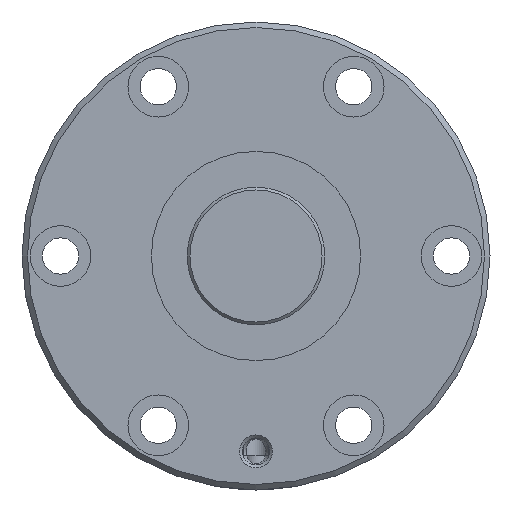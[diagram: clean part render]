
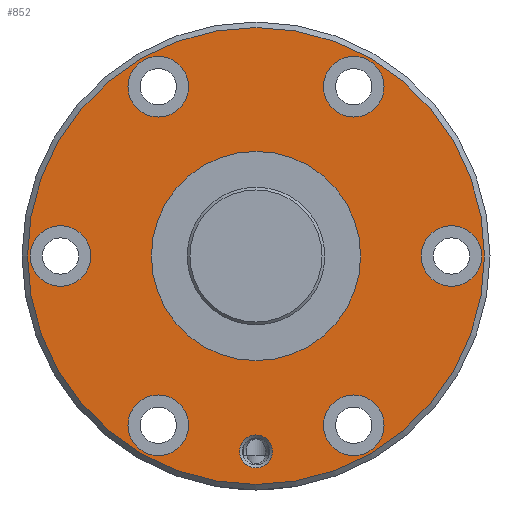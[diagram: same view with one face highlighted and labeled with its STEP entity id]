
A CAD part, left-side view. The second image highlights one B-rep face of the part: STEP entity #852.
In plain terms, the highlighted planar face has unit normal (-1, 0, 0).
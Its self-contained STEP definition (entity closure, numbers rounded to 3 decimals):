
#89=PLANE('',#957);
#145=ORIENTED_EDGE('',*,*,#325,.T.);
#146=ORIENTED_EDGE('',*,*,#326,.T.);
#147=ORIENTED_EDGE('',*,*,#327,.T.);
#148=ORIENTED_EDGE('',*,*,#328,.T.);
#149=ORIENTED_EDGE('',*,*,#329,.T.);
#150=ORIENTED_EDGE('',*,*,#330,.T.);
#151=ORIENTED_EDGE('',*,*,#331,.T.);
#152=ORIENTED_EDGE('',*,*,#332,.T.);
#153=ORIENTED_EDGE('',*,*,#324,.F.);
#324=EDGE_CURVE('',#419,#419,#497,.T.);
#325=EDGE_CURVE('',#420,#420,#498,.T.);
#326=EDGE_CURVE('',#421,#421,#499,.F.);
#327=EDGE_CURVE('',#422,#422,#500,.T.);
#328=EDGE_CURVE('',#423,#423,#501,.T.);
#329=EDGE_CURVE('',#424,#424,#502,.T.);
#330=EDGE_CURVE('',#425,#425,#503,.T.);
#331=EDGE_CURVE('',#426,#426,#504,.T.);
#332=EDGE_CURVE('',#427,#427,#505,.T.);
#419=VERTEX_POINT('',#1432);
#420=VERTEX_POINT('',#1435);
#421=VERTEX_POINT('',#1437);
#422=VERTEX_POINT('',#1439);
#423=VERTEX_POINT('',#1441);
#424=VERTEX_POINT('',#1443);
#425=VERTEX_POINT('',#1445);
#426=VERTEX_POINT('',#1447);
#427=VERTEX_POINT('',#1449);
#497=CIRCLE('',#956,41.5);
#498=CIRCLE('',#958,19.);
#499=CIRCLE('',#959,5.5);
#500=CIRCLE('',#960,3.);
#501=CIRCLE('',#961,5.5);
#502=CIRCLE('',#962,5.5);
#503=CIRCLE('',#963,5.5);
#504=CIRCLE('',#964,5.5);
#505=CIRCLE('',#965,5.5);
#575=EDGE_LOOP('',(#145));
#576=EDGE_LOOP('',(#146));
#577=EDGE_LOOP('',(#147));
#578=EDGE_LOOP('',(#148));
#579=EDGE_LOOP('',(#149));
#580=EDGE_LOOP('',(#150));
#581=EDGE_LOOP('',(#151));
#582=EDGE_LOOP('',(#152));
#583=EDGE_LOOP('',(#153));
#705=FACE_BOUND('',#575,.T.);
#706=FACE_BOUND('',#576,.T.);
#707=FACE_BOUND('',#577,.T.);
#708=FACE_BOUND('',#578,.T.);
#709=FACE_BOUND('',#579,.T.);
#710=FACE_BOUND('',#580,.T.);
#711=FACE_BOUND('',#581,.T.);
#712=FACE_BOUND('',#582,.T.);
#713=FACE_BOUND('',#583,.T.);
#852=ADVANCED_FACE('',(#705,#706,#707,#708,#709,#710,#711,#712,#713),#89,
 .T.);
#956=AXIS2_PLACEMENT_3D('',#1431,#1118,#1119);
#957=AXIS2_PLACEMENT_3D('',#1433,#1120,#1121);
#958=AXIS2_PLACEMENT_3D('',#1434,#1122,#1123);
#959=AXIS2_PLACEMENT_3D('',#1436,#1124,#1125);
#960=AXIS2_PLACEMENT_3D('',#1438,#1126,#1127);
#961=AXIS2_PLACEMENT_3D('',#1440,#1128,#1129);
#962=AXIS2_PLACEMENT_3D('',#1442,#1130,#1131);
#963=AXIS2_PLACEMENT_3D('',#1444,#1132,#1133);
#964=AXIS2_PLACEMENT_3D('',#1446,#1134,#1135);
#965=AXIS2_PLACEMENT_3D('',#1448,#1136,#1137);
#1118=DIRECTION('',(1.,0.,0.));
#1119=DIRECTION('',(0.,0.,-1.));
#1120=DIRECTION('',(-1.,0.,0.));
#1121=DIRECTION('',(0.,0.,1.));
#1122=DIRECTION('',(1.,0.,0.));
#1123=DIRECTION('',(0.,0.,-1.));
#1124=DIRECTION('',(-1.,0.,0.));
#1125=DIRECTION('',(0.,0.,1.));
#1126=DIRECTION('',(1.,0.,0.));
#1127=DIRECTION('',(0.,0.,-1.));
#1128=DIRECTION('',(1.,0.,0.));
#1129=DIRECTION('',(0.,0.,-1.));
#1130=DIRECTION('',(1.,0.,0.));
#1131=DIRECTION('',(0.,0.,-1.));
#1132=DIRECTION('',(1.,0.,0.));
#1133=DIRECTION('',(0.,0.,-1.));
#1134=DIRECTION('',(1.,0.,0.));
#1135=DIRECTION('',(0.,0.,-1.));
#1136=DIRECTION('',(1.,0.,0.));
#1137=DIRECTION('',(0.,0.,-1.));
#1431=CARTESIAN_POINT('',(0.,0.,0.));
#1432=CARTESIAN_POINT('',(0.,0.,-41.5));
#1433=CARTESIAN_POINT('',(0.,41.5,0.));
#1434=CARTESIAN_POINT('',(0.,0.,0.));
#1435=CARTESIAN_POINT('',(0.,0.,-19.));
#1436=CARTESIAN_POINT('',(0.,35.5,0.));
#1437=CARTESIAN_POINT('',(0.,35.5,5.5));
#1438=CARTESIAN_POINT('',(0.,0.,-35.5));
#1439=CARTESIAN_POINT('',(0.,0.,-38.5));
#1440=CARTESIAN_POINT('',(0.,-35.5,0.));
#1441=CARTESIAN_POINT('',(0.,-35.5,-5.5));
#1442=CARTESIAN_POINT('',(0.,17.75,30.744));
#1443=CARTESIAN_POINT('',(0.,17.75,25.244));
#1444=CARTESIAN_POINT('',(0.,-17.75,-30.744));
#1445=CARTESIAN_POINT('',(0.,-17.75,-36.244));
#1446=CARTESIAN_POINT('',(0.,-17.75,30.744));
#1447=CARTESIAN_POINT('',(0.,-17.75,25.244));
#1448=CARTESIAN_POINT('',(0.,17.75,-30.744));
#1449=CARTESIAN_POINT('',(0.,17.75,-36.244));
